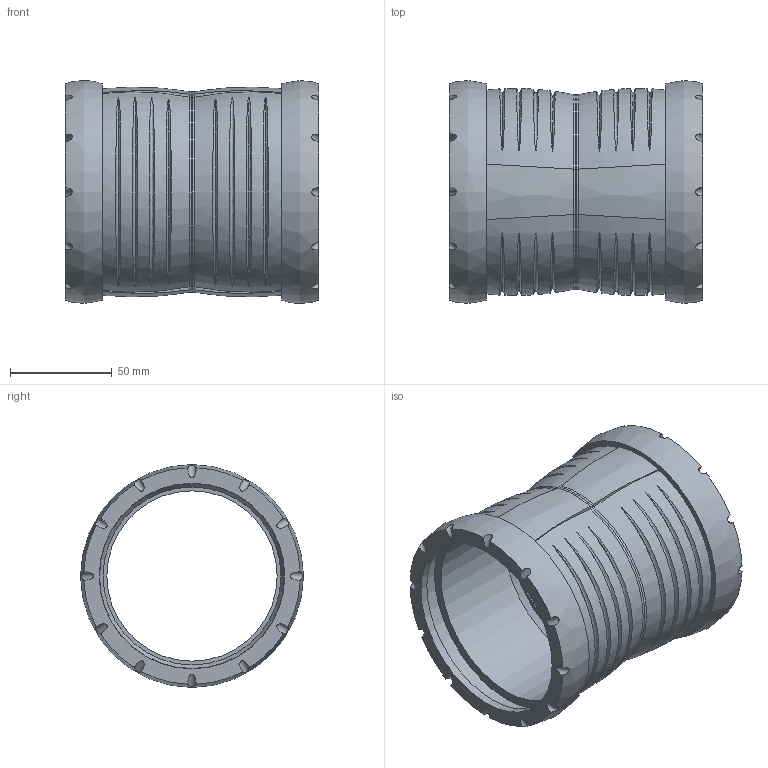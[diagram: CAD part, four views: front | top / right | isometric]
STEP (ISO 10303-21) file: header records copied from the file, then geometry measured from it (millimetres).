
FILE_DESCRIPTION(/* description */ (''),/* implementation_level */ '2;1');
FILE_NAME(/* name */ 'H:\Geberit-Teile\Export\Doppelsteckmuffe\stp\393416.stp',/* time_stamp */ '2017-02-14T08:57:20+01:00',/* author */ ('seihe2'),/* organization */ (''),/* preprocessor_version */ 'ST-DEVELOPER v15.2',/* originating_system */ 'Autodesk Inventor 2014',/* authorisation */ '');
FILE_SCHEMA (('AUTOMOTIVE_DESIGN { 1 0 10303 214 3 1 1 }'));
Length unit declared in the file: millimetre
Products named in the file (1): 393416
Bounding box: 124.4 x 109.5 x 109.5 mm (x, y, z)
Volume: 198562.4 mm3; surface area: 96045.5 mm2
Topology: 2 solids, 2 shells, 108 faces, 258 edges, 178 vertices
Faces by surface type: bspline 58, cylinder 36, plane 12, cone 2
Full cylindrical faces by diameter (mm): 83.7 x2, 90.9 x2, 91.2 x2, 100.2 x2
Entity records: 7745 total; most frequent: CARTESIAN_POINT 5507, ORIENTED_EDGE 492, DIRECTION 306, EDGE_CURVE 246, VERTEX_POINT 176, EDGE_LOOP 146, AXIS2_PLACEMENT_3D 145, B_SPLINE_CURVE_WITH_KNOTS 134
